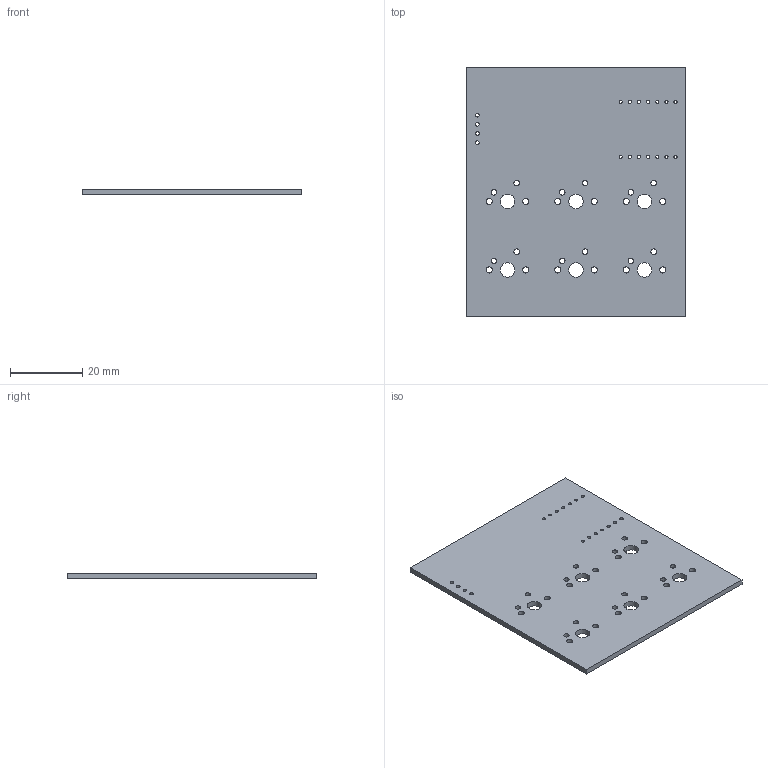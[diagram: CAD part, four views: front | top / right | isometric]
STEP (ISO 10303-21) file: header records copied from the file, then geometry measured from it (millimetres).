
FILE_DESCRIPTION(('KiCad electronic assembly'),'2;1');
FILE_NAME('pad.step','2025-05-16T11:50:19',('Pcbnew'),('Kicad'), 'Open CASCADE STEP processor 7.8','KiCad to STEP converter','Unknown' );
FILE_SCHEMA(('AUTOMOTIVE_DESIGN { 1 0 10303 214 1 1 1 1 }'));
Length unit declared in the file: millimetre
Products named in the file (2): pad 1; pad_PCB
Assembly tree (1 placements, depth 2):
  pad 1
    pad_PCB
Bounding box: 61 x 69.25 x 1.51 mm (x, y, z)
Volume: 6173.3 mm3; surface area: 8945.1 mm2
Topology: 1 solids, 1 shells, 54 faces, 156 edges, 104 vertices
Faces by surface type: cylinder 48, plane 6
Full cylindrical faces by diameter (mm): 0.889 x14, 1 x4, 1.524 x12, 1.702 x12, 3.988 x6
Entity records: 2065 total; most frequent: DIRECTION 364, CARTESIAN_POINT 316, ORIENTED_EDGE 312, EDGE_CURVE 156, AXIS2_PLACEMENT_3D 152, FACE_BOUND 150, EDGE_LOOP 150, VERTEX_POINT 104
